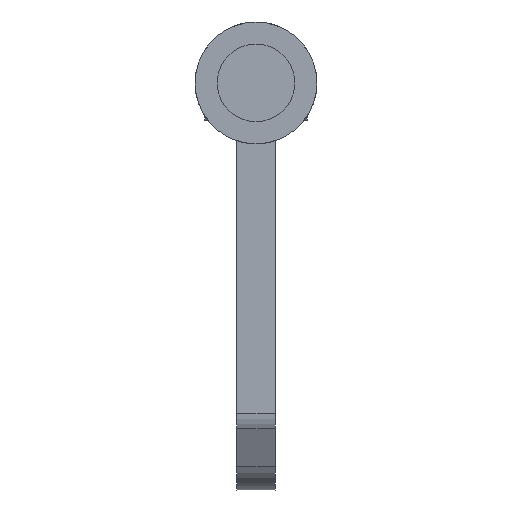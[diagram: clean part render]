
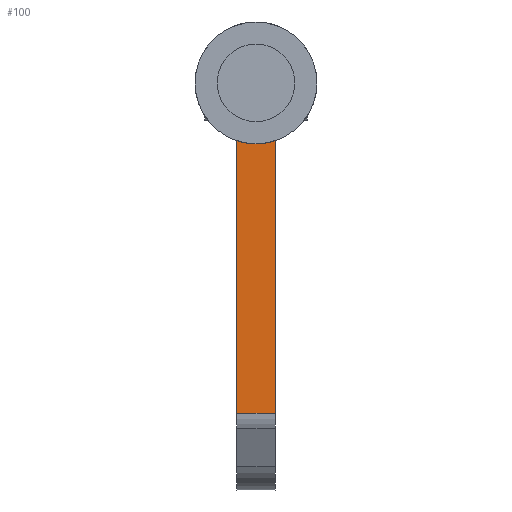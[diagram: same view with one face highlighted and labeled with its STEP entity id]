
A CAD part, front view. The second image highlights one B-rep face of the part: STEP entity #100.
In plain terms, the highlighted planar face has unit normal (0, -1, 0).
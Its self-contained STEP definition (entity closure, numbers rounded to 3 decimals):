
#37 = VERTEX_POINT ( 'NONE', #2109 ) ;
#100 = ADVANCED_FACE ( 'NONE', ( #303 ), #119, .F. ) ;
#119 = PLANE ( 'NONE',  #358 ) ;
#289 = EDGE_CURVE ( 'NONE', #298, #1788, #551, .T. ) ;
#297 = DIRECTION ( 'NONE',  ( 0., 0., -1. ) ) ;
#298 = VERTEX_POINT ( 'NONE', #1736 ) ;
#303 = FACE_OUTER_BOUND ( 'NONE', #2177, .T. ) ;
#358 = AXIS2_PLACEMENT_3D ( 'NONE', #1721, #1184, #2264 ) ;
#473 = CARTESIAN_POINT ( 'NONE',  ( -26.861, -11.298, 3. ) ) ;
#493 = VECTOR ( 'NONE', #1059, 1000. ) ;
#551 = LINE ( 'NONE', #1242, #493 ) ;
#656 = CARTESIAN_POINT ( 'NONE',  ( 25.077, -11.298, 3. ) ) ;
#816 = VECTOR ( 'NONE', #1088, 1000. ) ;
#885 = ORIENTED_EDGE ( 'NONE', *, *, #289, .T. ) ;
#919 = ORIENTED_EDGE ( 'NONE', *, *, #1016, .F. ) ;
#1016 = EDGE_CURVE ( 'NONE', #2092, #37, #1292, .T. ) ;
#1055 = VECTOR ( 'NONE', #297, 1000. ) ;
#1059 = DIRECTION ( 'NONE',  ( 1., 0., 0. ) ) ;
#1088 = DIRECTION ( 'NONE',  ( 1., 0., 0. ) ) ;
#1114 = ORIENTED_EDGE ( 'NONE', *, *, #2228, .T. ) ;
#1184 = DIRECTION ( 'NONE',  ( 0., 1., 0. ) ) ;
#1242 = CARTESIAN_POINT ( 'NONE',  ( -26.861, -11.298, -3. ) ) ;
#1292 = LINE ( 'NONE', #1796, #816 ) ;
#1336 = EDGE_CURVE ( 'NONE', #37, #1788, #1640, .T. ) ;
#1483 = CARTESIAN_POINT ( 'NONE',  ( -26.861, -11.298, 3. ) ) ;
#1640 = LINE ( 'NONE', #656, #2072 ) ;
#1720 = DIRECTION ( 'NONE',  ( 0., 0., -1. ) ) ;
#1721 = CARTESIAN_POINT ( 'NONE',  ( -26.861, -11.298, 3. ) ) ;
#1736 = CARTESIAN_POINT ( 'NONE',  ( -26.861, -11.298, -3. ) ) ;
#1788 = VERTEX_POINT ( 'NONE', #1985 ) ;
#1796 = CARTESIAN_POINT ( 'NONE',  ( -26.861, -11.298, 3. ) ) ;
#1985 = CARTESIAN_POINT ( 'NONE',  ( 25.077, -11.298, -3. ) ) ;
#2018 = LINE ( 'NONE', #473, #1055 ) ;
#2072 = VECTOR ( 'NONE', #1720, 1000. ) ;
#2092 = VERTEX_POINT ( 'NONE', #1483 ) ;
#2109 = CARTESIAN_POINT ( 'NONE',  ( 25.077, -11.298, 3. ) ) ;
#2138 = ORIENTED_EDGE ( 'NONE', *, *, #1336, .F. ) ;
#2177 = EDGE_LOOP ( 'NONE', ( #885, #2138, #919, #1114 ) ) ;
#2228 = EDGE_CURVE ( 'NONE', #2092, #298, #2018, .T. ) ;
#2264 = DIRECTION ( 'NONE',  ( 0., 0., 1. ) ) ;
